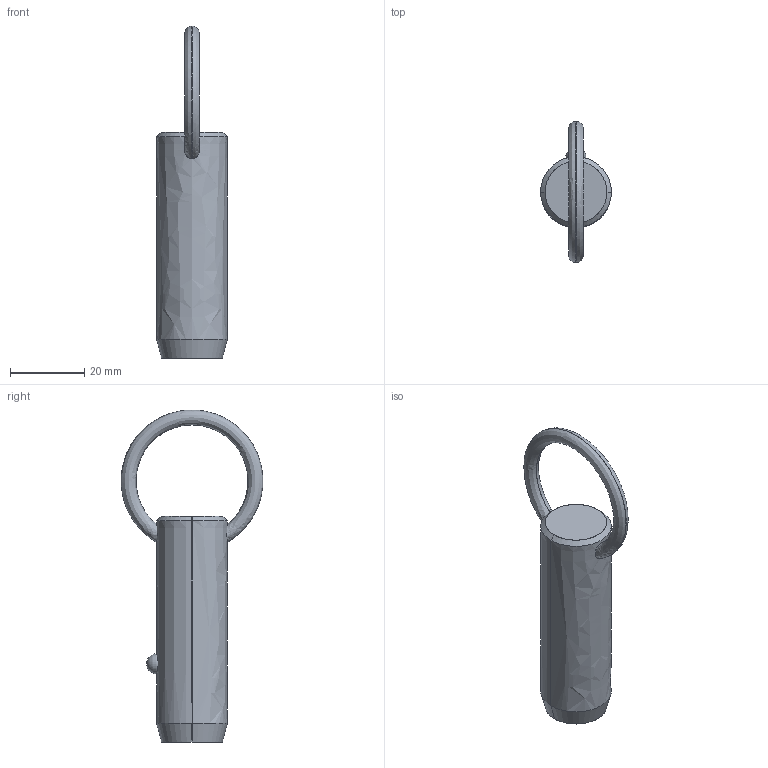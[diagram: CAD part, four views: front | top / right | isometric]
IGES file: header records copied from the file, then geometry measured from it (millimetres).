
Start section: SolidWorks IGES file using analytic representation for surfaces
Global section: file name: C:\Users\liam_\OneDrive\Documents\WORK\Work for WixRoyd\Job Files\J-00019 - Matt Davis CAD Checking\04. CAD Drawings\automotion20190605\P1250.2_v2\P1250.2_v2_20190729_IGES\P1250.075-110.igs; native system: SolidWorks 2017; preprocessor: SolidWorks 2017; author: liam_; date: 190729.234650; units: millimetre
Bounding box: 19 x 38.03 x 89.2 mm (x, y, z)
Surface area: 5150 mm2 (no closed solid volume)
Topology: 0 solids, 0 shells, 12 faces, 294 edges, 292 vertices
Faces by surface type: revolution 8, bspline 4
